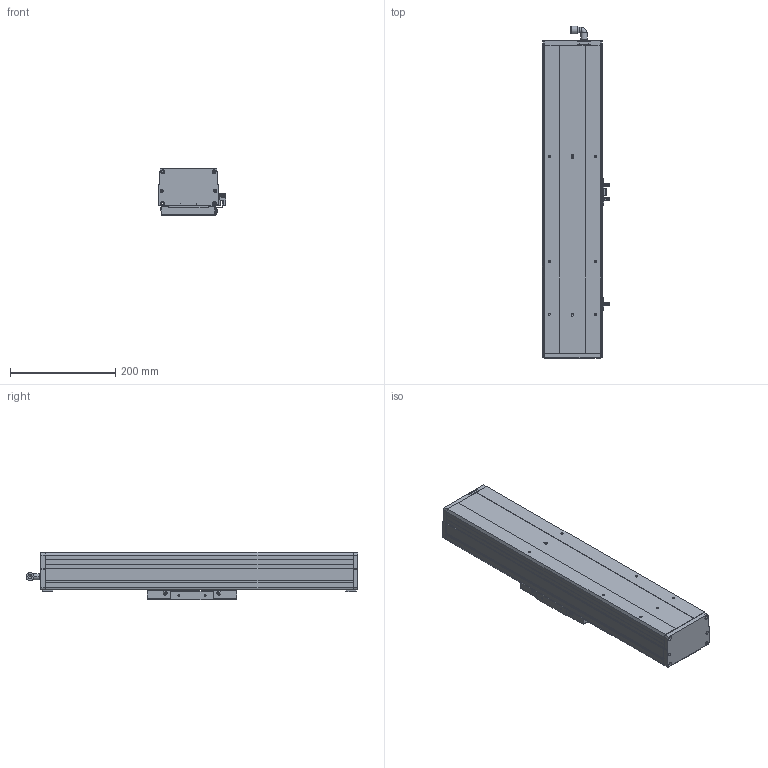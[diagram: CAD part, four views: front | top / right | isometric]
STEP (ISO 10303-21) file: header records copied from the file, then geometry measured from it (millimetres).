
FILE_DESCRIPTION (( 'STEP AP203' ), '1' );
FILE_NAME ('4.STEP', '2021-01-06T03:30:49', ( '' ), ( '' ), 'SwSTEP 2.0', 'SolidWorks 2016', '' );
FILE_SCHEMA (( 'CONFIG_CONTROL_DESIGN' ));
Length unit declared in the file: millimetre
Products named in the file (9): 4; BCH11-M-01; BCH11-M-10; BCH11-M-06; BCH11-M-HZ-01; BCH11-M-04; BCH11-M-菁釱; BCH11-M-02; BCH11-M-05
Assembly tree (11 placements, depth 2):
  4
    BCH11-M-菁釱
    BCH11-M-HZ-01
    BCH11-M-01
    BCH11-M-02  x2
    BCH11-M-04  x3
    BCH11-M-05
    BCH11-M-06
    BCH11-M-10
Bounding box: 127.7 x 630.93 x 90 mm (x, y, z)
Volume: 1692325.3 mm3; surface area: 574091.1 mm2
Topology: 19 solids, 19 shells, 1169 faces, 2991 edges, 1898 vertices
Faces by surface type: plane 737, cylinder 334, cone 72, bspline 12, sphere 12, torus 2
Entity records: 28404 total; most frequent: CARTESIAN_POINT 5090, DIRECTION 4735, ORIENTED_EDGE 4514, EDGE_CURVE 2257, AXIS2_PLACEMENT_3D 1597, VECTOR 1541, LINE 1541, VERTEX_POINT 1446
